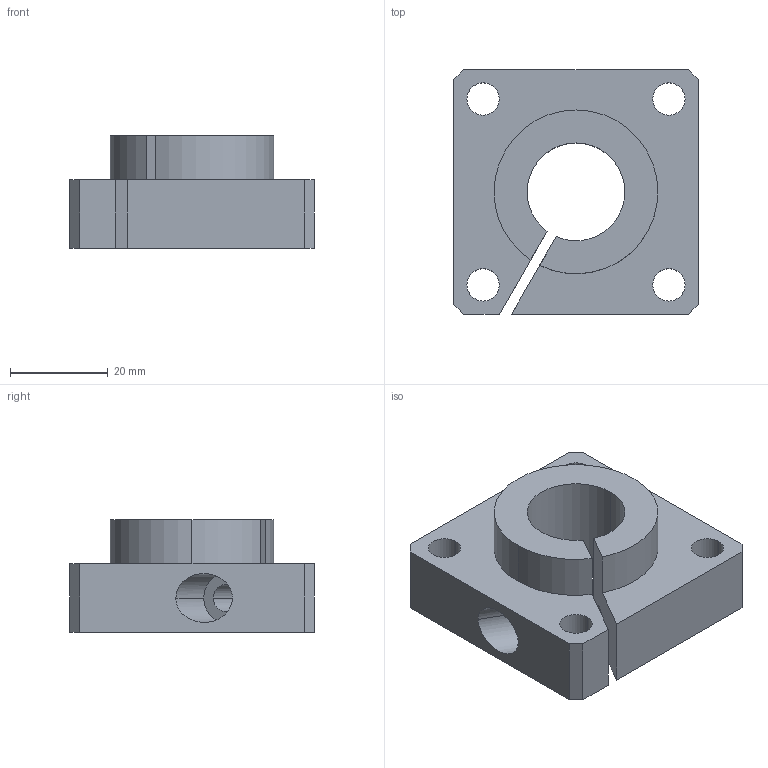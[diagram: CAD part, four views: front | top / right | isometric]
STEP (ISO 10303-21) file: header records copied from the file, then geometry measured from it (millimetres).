
FILE_DESCRIPTION (( 'STEP AP214' ), '1' );
FILE_NAME ('KFWB56-20.step', '2020-03-04T13:40:31', ( '' ), ( '' ), 'SwSTEP 2.0', 'SolidWorks 2019', '' );
FILE_SCHEMA (( 'AUTOMOTIVE_DESIGN' ));
Length unit declared in the file: millimetre
Products named in the file (1): KFWB56-20
Bounding box: 50 x 50 x 23 mm (x, y, z)
Volume: 31797.8 mm3; surface area: 11471.6 mm2
Topology: 1 solids, 1 shells, 37 faces, 100 edges, 65 vertices
Faces by surface type: cylinder 20, plane 15, cone 2
Entity records: 1238 total; most frequent: DIRECTION 210, CARTESIAN_POINT 207, ORIENTED_EDGE 196, EDGE_CURVE 98, AXIS2_PLACEMENT_3D 76, VERTEX_POINT 65, LINE 58, VECTOR 58
